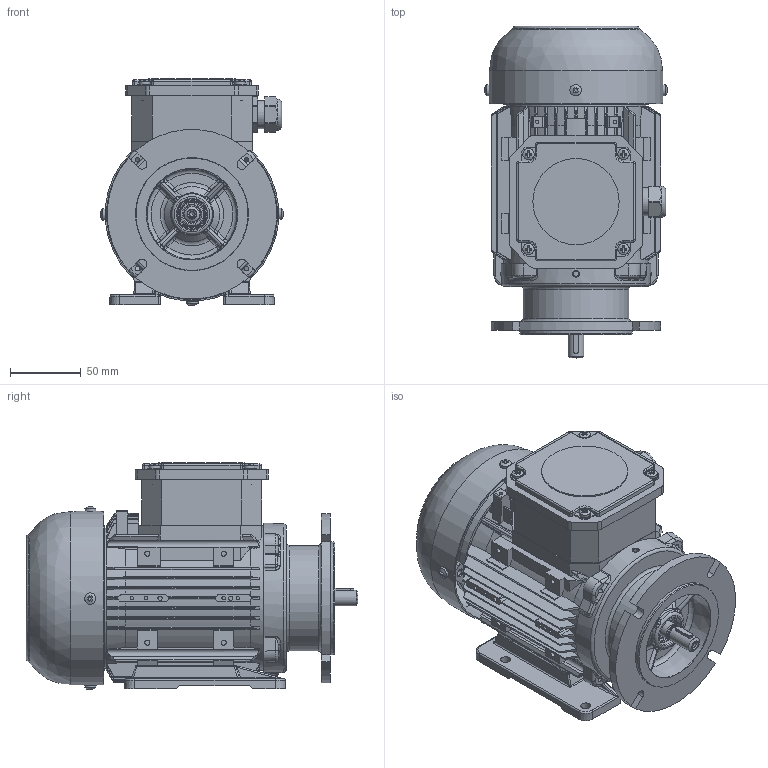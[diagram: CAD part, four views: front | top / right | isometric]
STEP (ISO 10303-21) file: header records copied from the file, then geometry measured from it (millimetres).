
FILE_DESCRIPTION(/* description */ (''),/* implementation_level */ '2;1');
FILE_NAME(/* name */ 'OUTLOOK VIEW QH63 PA B35 - REDUCED FF100 SPL.stp',/* time_stamp */ '2021-09-21T11:03:00+03:00',/* author */ (''),/* organization */ (''),/* preprocessor_version */ 'ST-DEVELOPER v16',/* originating_system */ 'SIEMENS PLM Software NX 11.0',/* authorisation */ '');
FILE_SCHEMA (('AUTOMOTIVE_DESIGN { 1 0 10303 214 3 1 1 1 }'));
Products named in the file (1): 260652D491E0rv5u
Bounding box: 129.21 x 234.84 x 160.6 mm (x, y, z)
Volume: 636308 mm3; surface area: 406635.7 mm2
Topology: 41 solids, 43 shells, 2932 faces, 7623 edges, 4802 vertices
Faces by surface type: plane 1208, cylinder 966, bspline 323, cone 224, torus 135, sphere 62, extrusion 14
Full cylindrical faces by diameter (mm): 1.7 x2, 2.5 x12, 3 x4, 3.15 x1, 3.3 x10, 3.65 x14, 4 x9, 4.3 x1, 4.5 x4, 4.65 x4, 4.8 x4, 5 x4, 5.1 x1, 5.5 x1, 8 x9, 10.4 x1, 11 x2, 11.4 x2, 11.5 x1, 12 x5, 12.2 x1, 12.5 x1, 13 x1, 14.5 x1, 15.5 x2, 18 x1, 18.45 x8, 18.5 x1, 18.9 x1, 19.1 x2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
Entity records: 101103 total; most frequent: CARTESIAN_POINT 28539, ORIENTED_EDGE 14180, DIRECTION 13546, EDGE_CURVE 7090, AXIS2_PLACEMENT_3D 5158, VERTEX_POINT 4703, EDGE_LOOP 3553, VECTOR 3230
